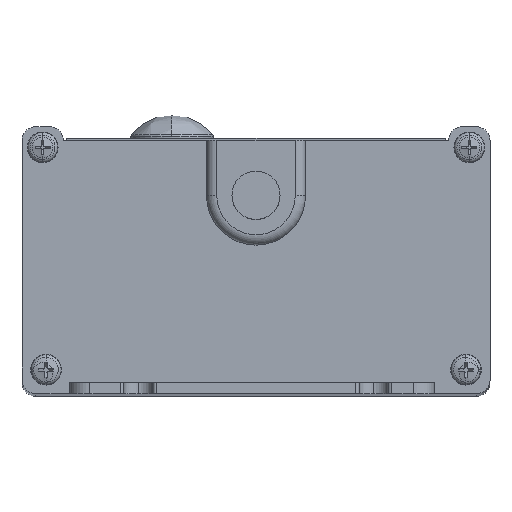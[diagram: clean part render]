
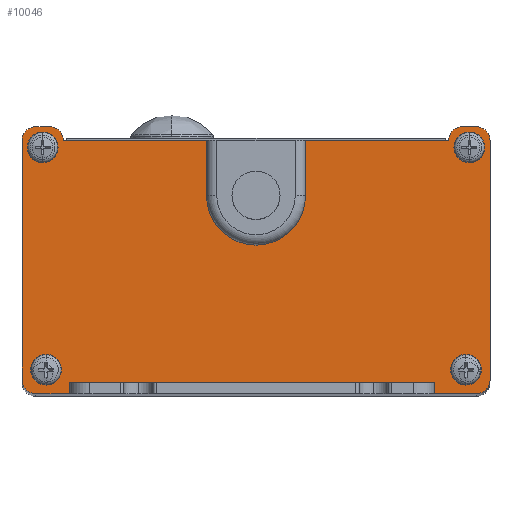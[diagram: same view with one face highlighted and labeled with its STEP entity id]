
A CAD part, top view. The second image highlights one B-rep face of the part: STEP entity #10046.
In plain terms, the highlighted planar face has unit normal (0, 0, 1).
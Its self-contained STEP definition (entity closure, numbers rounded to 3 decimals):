
#9009=DIRECTION('',(-1.,0.,0.));
#9010=VECTOR('',#9009,53.);
#9011=CARTESIAN_POINT('',(25.875,-27.2,1.6));
#9012=LINE('',#9011,#9010);
#9119=CARTESIAN_POINT('',(30.,8.,1.6));
#9120=DIRECTION('',(0.,0.,1.));
#9121=DIRECTION('',(0.,1.,0.));
#9122=AXIS2_PLACEMENT_3D('',#9119,#9120,#9121);
#9124=CARTESIAN_POINT('',(32.,8.,1.6));
#9125=DIRECTION('',(0.,0.,1.));
#9126=DIRECTION('',(1.,0.,0.));
#9127=AXIS2_PLACEMENT_3D('',#9124,#9125,#9126);
#9129=CARTESIAN_POINT('',(32.,-26.8,1.6));
#9130=DIRECTION('',(0.,0.,1.));
#9131=DIRECTION('',(0.,-1.,0.));
#9132=AXIS2_PLACEMENT_3D('',#9129,#9130,#9131);
#9134=CARTESIAN_POINT('',(-32.,-26.8,1.6));
#9135=DIRECTION('',(0.,0.,1.));
#9136=DIRECTION('',(-1.,0.,0.));
#9137=AXIS2_PLACEMENT_3D('',#9134,#9135,#9136);
#9139=CARTESIAN_POINT('',(-32.,8.,1.6));
#9140=DIRECTION('',(0.,0.,1.));
#9141=DIRECTION('',(0.,1.,0.));
#9142=AXIS2_PLACEMENT_3D('',#9139,#9140,#9141);
#9144=CARTESIAN_POINT('',(-30.,8.,1.6));
#9145=DIRECTION('',(0.,0.,1.));
#9146=DIRECTION('',(1.,0.,0.));
#9147=AXIS2_PLACEMENT_3D('',#9144,#9145,#9146);
#9149=CARTESIAN_POINT('',(-5.75,7.5,1.6));
#9150=DIRECTION('',(0.,0.,1.));
#9151=DIRECTION('',(1.,0.,0.));
#9152=AXIS2_PLACEMENT_3D('',#9149,#9150,#9151);
#9154=CARTESIAN_POINT('',(0.,0.,1.6));
#9155=DIRECTION('',(0.,0.,-1.));
#9156=DIRECTION('',(1.,0.,0.));
#9157=AXIS2_PLACEMENT_3D('',#9154,#9155,#9156);
#9159=CARTESIAN_POINT('',(5.75,7.5,1.6));
#9160=DIRECTION('',(0.,0.,1.));
#9161=DIRECTION('',(0.,1.,0.));
#9162=AXIS2_PLACEMENT_3D('',#9159,#9160,#9161);
#9164=CARTESIAN_POINT('',(31.,-25.8,1.6));
#9165=DIRECTION('',(0.,0.,-1.));
#9166=DIRECTION('',(1.,0.,0.));
#9167=AXIS2_PLACEMENT_3D('',#9164,#9165,#9166);
#9169=CARTESIAN_POINT('',(31.,-25.8,1.6));
#9170=DIRECTION('',(0.,0.,-1.));
#9171=DIRECTION('',(-1.,0.,0.));
#9172=AXIS2_PLACEMENT_3D('',#9169,#9170,#9171);
#9174=CARTESIAN_POINT('',(-31.,7.,1.6));
#9175=DIRECTION('',(0.,0.,-1.));
#9176=DIRECTION('',(1.,0.,0.));
#9177=AXIS2_PLACEMENT_3D('',#9174,#9175,#9176);
#9179=CARTESIAN_POINT('',(-31.,7.,1.6));
#9180=DIRECTION('',(0.,0.,-1.));
#9181=DIRECTION('',(-1.,0.,0.));
#9182=AXIS2_PLACEMENT_3D('',#9179,#9180,#9181);
#9184=CARTESIAN_POINT('',(-31.,-25.8,1.6));
#9185=DIRECTION('',(0.,0.,-1.));
#9186=DIRECTION('',(1.,0.,0.));
#9187=AXIS2_PLACEMENT_3D('',#9184,#9185,#9186);
#9189=CARTESIAN_POINT('',(-31.,-25.8,1.6));
#9190=DIRECTION('',(0.,0.,-1.));
#9191=DIRECTION('',(-1.,0.,0.));
#9192=AXIS2_PLACEMENT_3D('',#9189,#9190,#9191);
#9194=CARTESIAN_POINT('',(31.,7.,1.6));
#9195=DIRECTION('',(0.,0.,-1.));
#9196=DIRECTION('',(1.,0.,0.));
#9197=AXIS2_PLACEMENT_3D('',#9194,#9195,#9196);
#9199=CARTESIAN_POINT('',(31.,7.,1.6));
#9200=DIRECTION('',(0.,0.,-1.));
#9201=DIRECTION('',(-1.,0.,0.));
#9202=AXIS2_PLACEMENT_3D('',#9199,#9200,#9201);
#9204=DIRECTION('',(1.,0.,0.));
#9205=VECTOR('',#9204,22.25);
#9206=CARTESIAN_POINT('',(5.75,8.,1.6));
#9207=LINE('',#9206,#9205);
#9329=DIRECTION('',(0.,1.,0.));
#9330=VECTOR('',#9329,7.5);
#9331=CARTESIAN_POINT('',(5.25,0.,1.6));
#9332=LINE('',#9331,#9330);
#9341=DIRECTION('',(0.,-1.,0.));
#9342=VECTOR('',#9341,7.5);
#9343=CARTESIAN_POINT('',(-5.25,7.5,1.6));
#9344=LINE('',#9343,#9342);
#9353=DIRECTION('',(1.,0.,0.));
#9354=VECTOR('',#9353,22.25);
#9355=CARTESIAN_POINT('',(-28.,8.,1.6));
#9356=LINE('',#9355,#9354);
#9365=DIRECTION('',(1.,0.,0.));
#9366=VECTOR('',#9365,2.);
#9367=CARTESIAN_POINT('',(-32.,10.,1.6));
#9368=LINE('',#9367,#9366);
#9377=DIRECTION('',(0.,1.,0.));
#9378=VECTOR('',#9377,34.8);
#9379=CARTESIAN_POINT('',(-34.,-26.8,1.6));
#9380=LINE('',#9379,#9378);
#9389=DIRECTION('',(-1.,0.,0.));
#9390=VECTOR('',#9389,6.125);
#9391=CARTESIAN_POINT('',(32.,-28.8,1.6));
#9392=LINE('',#9391,#9390);
#9393=DIRECTION('',(-1.,0.,0.));
#9394=VECTOR('',#9393,4.875);
#9395=CARTESIAN_POINT('',(-27.125,-28.8,1.6));
#9396=LINE('',#9395,#9394);
#9483=DIRECTION('',(0.,-1.,0.));
#9484=VECTOR('',#9483,34.8);
#9485=CARTESIAN_POINT('',(34.,8.,1.6));
#9486=LINE('',#9485,#9484);
#9495=DIRECTION('',(1.,0.,0.));
#9496=VECTOR('',#9495,2.);
#9497=CARTESIAN_POINT('',(30.,10.,1.6));
#9498=LINE('',#9497,#9496);
#9507=DIRECTION('',(0.,-1.,0.));
#9508=VECTOR('',#9507,1.6);
#9509=CARTESIAN_POINT('',(-27.125,-27.2,1.6));
#9510=LINE('',#9509,#9508);
#9615=DIRECTION('',(0.,1.,0.));
#9616=VECTOR('',#9615,1.6);
#9617=CARTESIAN_POINT('',(25.875,-28.8,1.6));
#9618=LINE('',#9617,#9616);
#9695=CARTESIAN_POINT('',(32.5,7.,1.6));
#9696=CARTESIAN_POINT('',(29.5,7.,1.6));
#9697=VERTEX_POINT('',#9695);
#9698=VERTEX_POINT('',#9696);
#9719=CARTESIAN_POINT('',(5.75,8.,1.6));
#9720=CARTESIAN_POINT('',(28.,8.,1.6));
#9721=VERTEX_POINT('',#9719);
#9722=VERTEX_POINT('',#9720);
#9723=CARTESIAN_POINT('',(-29.5,-25.8,1.6));
#9724=CARTESIAN_POINT('',(-32.5,-25.8,1.6));
#9725=VERTEX_POINT('',#9723);
#9726=VERTEX_POINT('',#9724);
#9731=CARTESIAN_POINT('',(32.5,-25.8,1.6));
#9732=CARTESIAN_POINT('',(29.5,-25.8,1.6));
#9733=VERTEX_POINT('',#9731);
#9734=VERTEX_POINT('',#9732);
#9739=CARTESIAN_POINT('',(-27.125,-27.2,1.6));
#9740=CARTESIAN_POINT('',(-27.125,-28.8,1.6));
#9741=VERTEX_POINT('',#9739);
#9742=VERTEX_POINT('',#9740);
#9743=CARTESIAN_POINT('',(25.875,-27.2,1.6));
#9744=VERTEX_POINT('',#9743);
#9745=CARTESIAN_POINT('',(-5.25,7.5,1.6));
#9746=CARTESIAN_POINT('',(-5.75,8.,1.6));
#9747=VERTEX_POINT('',#9745);
#9748=VERTEX_POINT('',#9746);
#9749=CARTESIAN_POINT('',(-28.,8.,1.6));
#9750=VERTEX_POINT('',#9749);
#9751=CARTESIAN_POINT('',(-30.,10.,1.6));
#9752=VERTEX_POINT('',#9751);
#9753=CARTESIAN_POINT('',(-32.,10.,1.6));
#9754=VERTEX_POINT('',#9753);
#9755=CARTESIAN_POINT('',(-34.,8.,1.6));
#9756=VERTEX_POINT('',#9755);
#9757=CARTESIAN_POINT('',(5.25,7.5,1.6));
#9758=VERTEX_POINT('',#9757);
#9759=CARTESIAN_POINT('',(5.25,0.,1.6));
#9760=VERTEX_POINT('',#9759);
#9761=CARTESIAN_POINT('',(-5.25,0.,1.6));
#9762=VERTEX_POINT('',#9761);
#9763=CARTESIAN_POINT('',(-29.5,7.,1.6));
#9764=CARTESIAN_POINT('',(-32.5,7.,1.6));
#9765=VERTEX_POINT('',#9763);
#9766=VERTEX_POINT('',#9764);
#9771=CARTESIAN_POINT('',(30.,10.,1.6));
#9772=CARTESIAN_POINT('',(32.,10.,1.6));
#9773=VERTEX_POINT('',#9771);
#9774=VERTEX_POINT('',#9772);
#9775=CARTESIAN_POINT('',(25.875,-28.8,1.6));
#9776=VERTEX_POINT('',#9775);
#9777=CARTESIAN_POINT('',(32.,-28.8,1.6));
#9778=VERTEX_POINT('',#9777);
#9779=CARTESIAN_POINT('',(34.,-26.8,1.6));
#9780=VERTEX_POINT('',#9779);
#9781=CARTESIAN_POINT('',(34.,8.,1.6));
#9782=VERTEX_POINT('',#9781);
#9783=CARTESIAN_POINT('',(-34.,-26.8,1.6));
#9784=VERTEX_POINT('',#9783);
#9785=CARTESIAN_POINT('',(-32.,-28.8,1.6));
#9786=VERTEX_POINT('',#9785);
#9972=CARTESIAN_POINT('',(-32.,8.,1.6));
#9973=DIRECTION('',(0.,0.,-1.));
#9974=DIRECTION('',(-1.,0.,0.));
#9975=AXIS2_PLACEMENT_3D('',#9972,#9973,#9974);
#9976=PLANE('',#9975);
#9978=ORIENTED_EDGE('',*,*,#9977,.T.);
#9980=ORIENTED_EDGE('',*,*,#9979,.F.);
#9982=ORIENTED_EDGE('',*,*,#9981,.T.);
#9984=ORIENTED_EDGE('',*,*,#9983,.F.);
#9986=ORIENTED_EDGE('',*,*,#9985,.T.);
#9988=ORIENTED_EDGE('',*,*,#9987,.F.);
#9990=ORIENTED_EDGE('',*,*,#9989,.T.);
#9992=ORIENTED_EDGE('',*,*,#9991,.T.);
#9993=ORIENTED_EDGE('',*,*,#9916,.T.);
#9995=ORIENTED_EDGE('',*,*,#9994,.T.);
#9997=ORIENTED_EDGE('',*,*,#9996,.T.);
#9999=ORIENTED_EDGE('',*,*,#9998,.F.);
#10001=ORIENTED_EDGE('',*,*,#10000,.T.);
#10003=ORIENTED_EDGE('',*,*,#10002,.F.);
#10005=ORIENTED_EDGE('',*,*,#10004,.T.);
#10007=ORIENTED_EDGE('',*,*,#10006,.F.);
#10009=ORIENTED_EDGE('',*,*,#10008,.T.);
#10011=ORIENTED_EDGE('',*,*,#10010,.F.);
#10013=ORIENTED_EDGE('',*,*,#10012,.T.);
#10015=ORIENTED_EDGE('',*,*,#10014,.F.);
#10017=ORIENTED_EDGE('',*,*,#10016,.T.);
#10019=ORIENTED_EDGE('',*,*,#10018,.F.);
#10020=EDGE_LOOP('',(#9978,#9980,#9982,#9984,#9986,#9988,#9990,#9992,#9993,
#9995,#9997,#9999,#10001,#10003,#10005,#10007,#10009,#10011,#10013,#10015,
#10017,#10019));
#10021=FACE_OUTER_BOUND('',#10020,.F.);
#10023=ORIENTED_EDGE('',*,*,#10022,.F.);
#10025=ORIENTED_EDGE('',*,*,#10024,.F.);
#10026=EDGE_LOOP('',(#10023,#10025));
#10027=FACE_BOUND('',#10026,.F.);
#10029=ORIENTED_EDGE('',*,*,#10028,.F.);
#10031=ORIENTED_EDGE('',*,*,#10030,.F.);
#10032=EDGE_LOOP('',(#10029,#10031));
#10033=FACE_BOUND('',#10032,.F.);
#10035=ORIENTED_EDGE('',*,*,#10034,.F.);
#10037=ORIENTED_EDGE('',*,*,#10036,.F.);
#10038=EDGE_LOOP('',(#10035,#10037));
#10039=FACE_BOUND('',#10038,.F.);
#10041=ORIENTED_EDGE('',*,*,#10040,.F.);
#10043=ORIENTED_EDGE('',*,*,#10042,.F.);
#10044=EDGE_LOOP('',(#10041,#10043));
#10045=FACE_BOUND('',#10044,.F.);
#9123=CIRCLE('',#9122,2.);
#9128=CIRCLE('',#9127,2.);
#9133=CIRCLE('',#9132,2.);
#9138=CIRCLE('',#9137,2.);
#9143=CIRCLE('',#9142,2.);
#9148=CIRCLE('',#9147,2.);
#9153=CIRCLE('',#9152,0.5);
#9158=CIRCLE('',#9157,5.25);
#9163=CIRCLE('',#9162,0.5);
#9168=CIRCLE('',#9167,1.5);
#9173=CIRCLE('',#9172,1.5);
#9178=CIRCLE('',#9177,1.5);
#9183=CIRCLE('',#9182,1.5);
#9188=CIRCLE('',#9187,1.5);
#9193=CIRCLE('',#9192,1.5);
#9198=CIRCLE('',#9197,1.5);
#9203=CIRCLE('',#9202,1.5);
#9916=EDGE_CURVE('',#9744,#9741,#9012,.T.);
#9977=EDGE_CURVE('',#9721,#9722,#9207,.T.);
#9979=EDGE_CURVE('',#9773,#9722,#9123,.T.);
#9981=EDGE_CURVE('',#9773,#9774,#9498,.T.);
#9983=EDGE_CURVE('',#9782,#9774,#9128,.T.);
#9985=EDGE_CURVE('',#9782,#9780,#9486,.T.);
#9987=EDGE_CURVE('',#9778,#9780,#9133,.T.);
#9989=EDGE_CURVE('',#9778,#9776,#9392,.T.);
#9991=EDGE_CURVE('',#9776,#9744,#9618,.T.);
#9994=EDGE_CURVE('',#9741,#9742,#9510,.T.);
#9996=EDGE_CURVE('',#9742,#9786,#9396,.T.);
#9998=EDGE_CURVE('',#9784,#9786,#9138,.T.);
#10000=EDGE_CURVE('',#9784,#9756,#9380,.T.);
#10002=EDGE_CURVE('',#9754,#9756,#9143,.T.);
#10004=EDGE_CURVE('',#9754,#9752,#9368,.T.);
#10006=EDGE_CURVE('',#9750,#9752,#9148,.T.);
#10008=EDGE_CURVE('',#9750,#9748,#9356,.T.);
#10010=EDGE_CURVE('',#9747,#9748,#9153,.T.);
#10012=EDGE_CURVE('',#9747,#9762,#9344,.T.);
#10014=EDGE_CURVE('',#9760,#9762,#9158,.T.);
#10016=EDGE_CURVE('',#9760,#9758,#9332,.T.);
#10018=EDGE_CURVE('',#9721,#9758,#9163,.T.);
#10022=EDGE_CURVE('',#9733,#9734,#9168,.T.);
#10024=EDGE_CURVE('',#9734,#9733,#9173,.T.);
#10028=EDGE_CURVE('',#9765,#9766,#9178,.T.);
#10030=EDGE_CURVE('',#9766,#9765,#9183,.T.);
#10034=EDGE_CURVE('',#9725,#9726,#9188,.T.);
#10036=EDGE_CURVE('',#9726,#9725,#9193,.T.);
#10040=EDGE_CURVE('',#9697,#9698,#9198,.T.);
#10042=EDGE_CURVE('',#9698,#9697,#9203,.T.);
#10046=ADVANCED_FACE('',(#10021,#10027,#10033,#10039,#10045),#9976,.F.);
